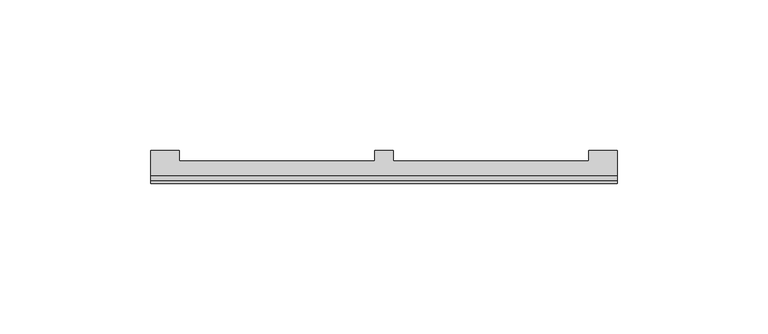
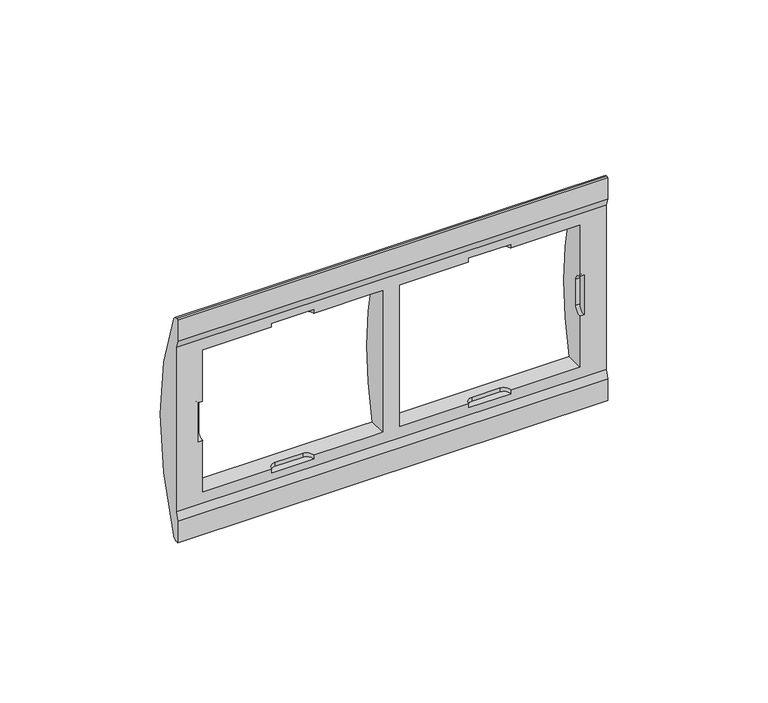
"""IFC4 building model written with IfcOpenShell, lengths in millimetres: proxy geometry, Iris_AceroNeptuno : Marco 2 Elementos."""

from ifc_helpers import new_model, si_unit, frame, origin, place, context, project, spatial, polyline, circle_curve, source, transform, mapped, element, save
from ifc_brep_helpers import plane_surface, cylinder_surface, revolved_surface, advanced_brep


def electrical_fixtures_6fdf20cc(model_context):
    return source(origin(), model_context, "Body", "AdvancedBrep", [
        advanced_brep(
        [(12.3, 100.0, 957.5), (12.3, 100.0, 965.7230531), (12.3, 101.0, 968.6297767), (12.3, 101.0, 1031.3702233), (12.3, 100.0, 1034.2769469), (12.3, 100.0, 1042.5), (12.3, 100.7901352, 1042.5), (12.3, 102.6322532, 1041.2788462), (12.3, 102.6322532, 958.7211538), (12.3, 100.7901352, 957.5), (167.3, 100.0, 957.5), (167.3, 100.7901352, 957.5), (167.3, 102.6322532, 958.7211538), (167.3, 102.6322532, 1041.2788462), (167.3, 100.7901352, 1042.5), (167.3, 100.0, 1042.5), (167.3, 100.0, 1034.2769469), (167.3, 101.0, 1031.3702233), (167.3, 101.0, 968.6297767), (167.3, 100.0, 965.7230531), (157.8, 111.0, 1000.0), (157.8, 107.5036585, 1027.0), (92.8, 107.5036585, 1027.0), (92.8, 111.0, 1000.0), (92.8, 107.5036585, 973.0), (157.8, 107.5036585, 973.0), (86.8, 111.0, 1000.0), (86.8, 107.5036585, 1027.0), (83.3, 107.5036585, 1027.0), (21.8, 107.5036585, 1027.0), (21.8, 111.0, 1000.0), (21.8, 107.5036585, 973.0), (83.3, 107.5036585, 973.0), (86.8, 107.5036585, 973.0), (159.3, 101.0, 1007.5), (159.3, 103.5, 1005.0), (159.3, 103.5, 995.0), (159.3, 101.0, 992.5), (157.8, 101.0, 1007.5), (157.8, 103.5, 1005.0), (157.8, 103.5, 995.0), (157.8, 101.0, 992.5), (20.3, 101.0, 992.5), (20.3, 103.5, 995.0), (20.3, 103.5, 1005.0), (20.3, 101.0, 1007.5), (21.8, 103.5, 1005.0), (21.8, 101.0, 1007.5), (21.8, 103.5, 995.0), (21.8, 101.0, 992.5), (157.8, 101.0, 973.0), (132.8, 101.0, 973.0), (132.8, 101.0, 971.5), (117.8, 101.0, 971.5), (117.8, 101.0, 973.0), (92.8, 101.0, 973.0), (92.8, 101.0, 1027.0), (117.8, 101.0, 1027.0), (117.8, 101.0, 1028.5), (132.8, 101.0, 1028.5), (132.8, 101.0, 1027.0), (157.8, 101.0, 1027.0), (21.8, 101.0, 1027.0), (46.8, 101.0, 1027.0), (46.8, 101.0, 1028.5), (61.8, 101.0, 1028.5), (61.8, 101.0, 1027.0), (83.3, 101.0, 1027.0), (86.8, 101.0, 1027.0), (86.8, 101.0, 973.0), (83.3, 101.0, 973.0), (61.8, 101.0, 973.0), (61.8, 101.0, 971.5), (46.8, 101.0, 971.5), (46.8, 101.0, 973.0), (21.8, 101.0, 973.0), (130.3, 103.5, 971.5), (120.3, 103.5, 971.5), (120.3, 103.5, 973.0), (130.3, 103.5, 973.0), (120.3, 103.5, 1028.5), (130.3, 103.5, 1028.5), (120.3, 103.5, 1027.0), (130.3, 103.5, 1027.0), (49.3, 103.5, 1028.5), (59.3, 103.5, 1028.5), (49.3, 103.5, 1027.0), (59.3, 103.5, 1027.0), (59.3, 103.5, 971.5), (49.3, 103.5, 971.5), (49.3, 103.5, 973.0), (59.3, 103.5, 973.0)],
        [
            (0, 1),
            (1, 2, circle_curve(frame((12.3, 5.0909091, 1000.0), z_axis=(1.0, 0.0, 0.0), x_axis=(0.0, 0.0, 1.0)), 100.9090909)),
            (2, 3),
            (3, 4, circle_curve(frame((12.3, 5.0909091, 1000.0), z_axis=(1.0, 0.0, 0.0), x_axis=(0.0, 0.0, 1.0)), 100.9090909)),
            (4, 5),
            (5, 6),
            (6, 7, circle_curve(frame((12.3, 100.7901352, 1040.5), z_axis=(-1.0, 0.0, 0.0), x_axis=(0.0, 0.0, 1.0)), 2.0)),
            (7, 8, circle_curve(frame((12.3, 5.0, 1000.0), z_axis=(-1.0, 0.0, 0.0), x_axis=(0.0, 0.0, 1.0)), 106.0)),
            (8, 9, circle_curve(frame((12.3, 100.7901352, 959.5), z_axis=(-1.0, 0.0, 0.0), x_axis=(0.0, 0.0, 1.0)), 2.0)),
            (9, 0),
            (10, 11),
            (11, 12, circle_curve(frame((167.3, 100.7901352, 959.5), z_axis=(1.0, 0.0, 0.0), x_axis=(0.0, 0.0, 1.0)), 2.0)),
            (12, 13, circle_curve(frame((167.3, 5.0, 1000.0), z_axis=(1.0, 0.0, 0.0), x_axis=(0.0, 0.0, 1.0)), 106.0)),
            (13, 14, circle_curve(frame((167.3, 100.7901352, 1040.5), z_axis=(1.0, 0.0, 0.0), x_axis=(0.0, 0.0, 1.0)), 2.0)),
            (14, 15),
            (15, 16),
            (16, 17, circle_curve(frame((167.3, 5.0909091, 1000.0), z_axis=(-1.0, 0.0, 0.0), x_axis=(0.0, 0.0, 1.0)), 100.9090909)),
            (17, 18),
            (18, 19, circle_curve(frame((167.3, 5.0909091, 1000.0), z_axis=(-1.0, 0.0, 0.0), x_axis=(0.0, 0.0, 1.0)), 100.9090909)),
            (19, 10),
            (0, 10),
            (19, 1),
            (7, 13),
            (12, 8),
            (20, 21, circle_curve(frame((157.8, 5.0, 1000.0), z_axis=(1.0, 0.0, 0.0), x_axis=(0.0, 0.0, 1.0)), 106.0)),
            (21, 22),
            (22, 23, circle_curve(frame((92.8, 5.0, 1000.0), z_axis=(-1.0, 0.0, 0.0), x_axis=(0.0, 0.0, 1.0)), 106.0)),
            (23, 24, circle_curve(frame((92.8, 5.0, 1000.0), z_axis=(-1.0, 0.0, 0.0), x_axis=(0.0, 0.0, 1.0)), 106.0)),
            (24, 25),
            (25, 20, circle_curve(frame((157.8, 5.0, 1000.0), z_axis=(1.0, 0.0, 0.0), x_axis=(0.0, 0.0, 1.0)), 106.0)),
            (26, 27, circle_curve(frame((86.8, 5.0, 1000.0), z_axis=(1.0, 0.0, 0.0), x_axis=(0.0, 0.0, 1.0)), 106.0)),
            (27, 28),
            (28, 29),
            (29, 30, circle_curve(frame((21.8, 5.0, 1000.0), z_axis=(-1.0, 0.0, 0.0), x_axis=(0.0, 0.0, 1.0)), 106.0)),
            (30, 31, circle_curve(frame((21.8, 5.0, 1000.0), z_axis=(-1.0, 0.0, 0.0), x_axis=(0.0, 0.0, 1.0)), 106.0)),
            (31, 32),
            (32, 33),
            (33, 26, circle_curve(frame((86.8, 5.0, 1000.0), z_axis=(1.0, 0.0, 0.0), x_axis=(0.0, 0.0, 1.0)), 106.0)),
            (5, 15),
            (14, 6),
            (9, 11),
            (34, 35, circle_curve(frame((159.3, 101.0, 1005.0), z_axis=(-1.0, 0.0, 0.0), x_axis=(0.0, 0.0, -1.0)), 2.5)),
            (35, 36),
            (36, 37, circle_curve(frame((159.3, 101.0, 995.0), z_axis=(-1.0, 0.0, 0.0), x_axis=(0.0, 0.0, -1.0)), 2.5)),
            (37, 34),
            (34, 38),
            (38, 39, circle_curve(frame((157.8, 101.0, 1005.0), z_axis=(-1.0, 0.0, 0.0), x_axis=(0.0, 0.0, -1.0)), 2.5)),
            (39, 35),
            (39, 40),
            (40, 36),
            (40, 41, circle_curve(frame((157.8, 101.0, 995.0), z_axis=(-1.0, 0.0, 0.0), x_axis=(0.0, 0.0, -1.0)), 2.5)),
            (41, 37),
            (42, 43, circle_curve(frame((20.3, 101.0, 995.0), z_axis=(1.0, 0.0, 0.0), x_axis=(0.0, 0.0, -1.0)), 2.5)),
            (43, 44),
            (44, 45, circle_curve(frame((20.3, 101.0, 1005.0), z_axis=(1.0, 0.0, 0.0), x_axis=(0.0, 0.0, -1.0)), 2.5)),
            (45, 42),
            (44, 46),
            (46, 47, circle_curve(frame((21.8, 101.0, 1005.0), z_axis=(1.0, 0.0, 0.0), x_axis=(0.0, 0.0, -1.0)), 2.5)),
            (47, 45),
            (43, 48),
            (48, 46),
            (42, 49),
            (49, 48, circle_curve(frame((21.8, 101.0, 995.0), z_axis=(1.0, 0.0, 0.0), x_axis=(0.0, 0.0, -1.0)), 2.5)),
            (18, 2),
            (17, 3),
            (41, 50),
            (50, 51),
            (51, 52),
            (52, 53),
            (53, 54),
            (54, 55),
            (55, 56),
            (56, 57),
            (57, 58),
            (58, 59),
            (59, 60),
            (60, 61),
            (61, 38),
            (47, 62),
            (62, 63),
            (63, 64),
            (64, 65),
            (65, 66),
            (66, 67),
            (67, 68),
            (68, 69),
            (69, 70),
            (70, 71),
            (71, 72),
            (72, 73),
            (73, 74),
            (74, 75),
            (75, 49),
            (16, 4),
            (52, 76, circle_curve(frame((130.3, 101.0, 971.5), z_axis=(0.0, 0.0, 1.0), x_axis=(1.0, 0.0, 0.0)), 2.5)),
            (76, 77),
            (77, 53, circle_curve(frame((120.3, 101.0, 971.5), z_axis=(0.0, 0.0, 1.0), x_axis=(1.0, 0.0, 0.0)), 2.5)),
            (77, 78),
            (78, 54, circle_curve(frame((120.3, 101.0, 973.0), z_axis=(0.0, 0.0, 1.0), x_axis=(1.0, 0.0, 0.0)), 2.5)),
            (76, 79),
            (79, 78),
            (51, 79, circle_curve(frame((130.3, 101.0, 973.0), z_axis=(0.0, 0.0, 1.0), x_axis=(1.0, 0.0, 0.0)), 2.5)),
            (58, 80, circle_curve(frame((120.3, 101.0, 1028.5), z_axis=(0.0, 0.0, -1.0), x_axis=(1.0, 0.0, 0.0)), 2.5)),
            (80, 81),
            (81, 59, circle_curve(frame((130.3, 101.0, 1028.5), z_axis=(0.0, 0.0, -1.0), x_axis=(1.0, 0.0, 0.0)), 2.5)),
            (57, 82, circle_curve(frame((120.3, 101.0, 1027.0), z_axis=(0.0, 0.0, -1.0), x_axis=(1.0, 0.0, 0.0)), 2.5)),
            (82, 80),
            (82, 83),
            (83, 81),
            (83, 60, circle_curve(frame((130.3, 101.0, 1027.0), z_axis=(0.0, 0.0, -1.0), x_axis=(1.0, 0.0, 0.0)), 2.5)),
            (64, 84, circle_curve(frame((49.3, 101.0, 1028.5), z_axis=(0.0, 0.0, -1.0), x_axis=(-1.0, 0.0, 0.0)), 2.5)),
            (84, 85),
            (85, 65, circle_curve(frame((59.3, 101.0, 1028.5), z_axis=(0.0, 0.0, -1.0), x_axis=(-1.0, 0.0, 0.0)), 2.5)),
            (63, 86, circle_curve(frame((49.3, 101.0, 1027.0), z_axis=(0.0, 0.0, -1.0), x_axis=(-1.0, 0.0, 0.0)), 2.5)),
            (86, 84),
            (86, 87),
            (87, 85),
            (87, 66, circle_curve(frame((59.3, 101.0, 1027.0), z_axis=(0.0, 0.0, -1.0), x_axis=(-1.0, 0.0, 0.0)), 2.5)),
            (72, 88, circle_curve(frame((59.3, 101.0, 971.5), z_axis=(0.0, 0.0, 1.0), x_axis=(-1.0, 0.0, 0.0)), 2.5)),
            (88, 89),
            (89, 73, circle_curve(frame((49.3, 101.0, 971.5), z_axis=(0.0, 0.0, 1.0), x_axis=(-1.0, 0.0, 0.0)), 2.5)),
            (89, 90),
            (90, 74, circle_curve(frame((49.3, 101.0, 973.0), z_axis=(0.0, 0.0, 1.0), x_axis=(-1.0, 0.0, 0.0)), 2.5)),
            (88, 91),
            (91, 90),
            (71, 91, circle_curve(frame((59.3, 101.0, 973.0), z_axis=(0.0, 0.0, 1.0), x_axis=(-1.0, 0.0, 0.0)), 2.5)),
            (61, 21),
            (25, 50),
            (55, 24),
            (22, 56),
            (68, 27),
            (33, 69),
            (75, 31),
            (29, 62),
        ],
        [
            plane_surface(frame((12.3, 100.0, 1045.0), z_axis=(-1.0, 0.0, 0.0), x_axis=(0.0, 0.0, 1.0))),
            plane_surface(frame((167.3, 100.0, 1045.0), z_axis=(1.0, 0.0, 0.0), x_axis=(0.0, 0.0, -1.0))),
            plane_surface(frame((12.3, 100.0, 957.5), z_axis=(0.0, -1.0, 0.0), x_axis=(1.0, 0.0, 0.0))),
            cylinder_surface(frame((167.3, 5.0, 1000.0), z_axis=(-1.0, 0.0, 0.0), x_axis=(0.0, 0.0, 1.0)), 106.0),
            plane_surface(frame((12.3, 100.0, 1042.5), z_axis=(0.0, 0.0, 1.0), x_axis=(1.0, 0.0, 0.0))),
            plane_surface(frame((12.3, 100.7901352, 957.5), z_axis=(0.0, 0.0, -1.0), x_axis=(1.0, 0.0, 0.0))),
            plane_surface(frame((159.3, 100.0, 1045.0), z_axis=(-1.0, 0.0, 0.0), x_axis=(0.0, 0.0, -1.0))),
            revolved_surface(polyline([(157.8, 101.0, 1002.5), (159.3, 101.0, 1002.5)]), (159.3, 101.0, 1005.0), (-1.0, 0.0, 0.0)),
            plane_surface(frame((153.8, 103.5, 1005.0), z_axis=(0.0, -1.0, 0.0), x_axis=(1.0, 0.0, 0.0))),
            revolved_surface(polyline([(157.8, 101.0, 992.5), (159.3, 101.0, 992.5)]), (159.3, 101.0, 995.0), (-1.0, 0.0, 0.0)),
            plane_surface(frame((20.3, 101.0, 992.5), z_axis=(1.0, 0.0, 0.0), x_axis=(0.0, -1.0, 0.0))),
            revolved_surface(polyline([(21.8, 101.0, 1002.5), (20.3, 101.0, 1002.5)]), (20.3, 101.0, 1005.0), (1.0, 0.0, 0.0)),
            plane_surface(frame((25.8, 103.5, 995.0), z_axis=(0.0, -1.0, 0.0), x_axis=(-1.0, 0.0, 0.0))),
            revolved_surface(polyline([(21.8, 101.0, 992.5), (20.3, 101.0, 992.5)]), (20.3, 101.0, 995.0), (1.0, 0.0, 0.0)),
            revolved_surface(polyline([(167.3, 5.0909091, 1100.9090909), (12.300000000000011, 5.0909091, 1100.9090909)]), (167.3, 5.0909091, 1000.0), (1.0, 0.0, 0.0)),
            plane_surface(frame((12.3, 101.0, 968.6297767), z_axis=(0.0, -1.0, 0.0), x_axis=(1.0, 0.0, 0.0))),
            plane_surface(frame((12.3, 100.0, 1034.2769469), z_axis=(0.0, -1.0, 0.0), x_axis=(1.0, 0.0, 0.0))),
            plane_surface(frame((80.3, 100.0, 971.5), z_axis=(0.0, 0.0, 1.0), x_axis=(-1.0, 0.0, 0.0))),
            revolved_surface(polyline([(122.8, 101.0, 971.5), (122.8, 101.0, 973.0)]), (120.3, 101.0, 979.0), (0.0, 0.0, -1.0)),
            plane_surface(frame((120.3, 103.5, 971.5), z_axis=(0.0, -1.0, 0.0), x_axis=(0.0, 0.0, 1.0))),
            revolved_surface(polyline([(132.8, 101.0, 971.5), (132.8, 101.0, 973.0)]), (130.3, 101.0, 979.0), (0.0, 0.0, -1.0)),
            plane_surface(frame((132.8, 120.0298457, 1028.5), z_axis=(0.0, 0.0, -1.0), x_axis=(0.0, 1.0, 0.0))),
            revolved_surface(polyline([(122.8, 101.0, 1028.5), (122.8, 101.0, 1027.0)]), (120.3, 101.0, 1021.0), (0.0, 0.0, 1.0)),
            plane_surface(frame((130.3, 103.5, 1028.5), z_axis=(0.0, -1.0, 0.0), x_axis=(0.0, 0.0, -1.0))),
            revolved_surface(polyline([(132.8, 101.0, 1028.5), (132.8, 101.0, 1027.0)]), (130.3, 101.0, 1021.0), (0.0, 0.0, 1.0)),
            plane_surface(frame((61.8, 101.0, 1028.5), z_axis=(0.0, 0.0, -1.0), x_axis=(0.0, 1.0, 0.0))),
            revolved_surface(polyline([(46.8, 101.0, 1028.5), (46.8, 101.0, 1027.0)]), (49.3, 101.0, 1021.0), (0.0, 0.0, 1.0)),
            plane_surface(frame((59.3, 103.5, 1028.5), z_axis=(0.0, -1.0, 0.0), x_axis=(0.0, 0.0, -1.0))),
            revolved_surface(polyline([(56.8, 101.0, 1028.5), (56.8, 101.0, 1027.0)]), (59.3, 101.0, 1021.0), (0.0, 0.0, 1.0)),
            plane_surface(frame((46.8, 100.0, 971.5), z_axis=(0.0, 0.0, 1.0), x_axis=(-1.0, 0.0, 0.0))),
            revolved_surface(polyline([(46.8, 101.0, 971.5), (46.8, 101.0, 973.0)]), (49.3, 101.0, 979.0), (0.0, 0.0, -1.0)),
            plane_surface(frame((49.3, 103.5, 971.5), z_axis=(0.0, -1.0, 0.0), x_axis=(0.0, 0.0, 1.0))),
            revolved_surface(polyline([(56.8, 101.0, 971.5), (56.8, 101.0, 973.0)]), (59.3, 101.0, 979.0), (0.0, 0.0, -1.0)),
            plane_surface(frame((157.8, 94.1055079, 973.0), z_axis=(-1.0, 0.0, 0.0), x_axis=(0.0, 1.0, 0.0))),
            plane_surface(frame((92.8, 94.1055079, 973.0), z_axis=(1.0, 0.0, 0.0), x_axis=(0.0, -1.0, 0.0))),
            plane_surface(frame((157.8, 111.0, 1027.0), z_axis=(0.0, 0.0, -1.0), x_axis=(-1.0, 0.0, 0.0))),
            plane_surface(frame((157.8, 100.0, 973.0), z_axis=(0.0, 0.0, 1.0), x_axis=(-1.0, 0.0, 0.0))),
            plane_surface(frame((86.8, 94.1055079, 973.0), z_axis=(-1.0, 0.0, 0.0), x_axis=(0.0, 1.0, 0.0))),
            plane_surface(frame((21.8, 94.1055079, 973.0), z_axis=(1.0, 0.0, 0.0), x_axis=(0.0, -1.0, 0.0))),
            plane_surface(frame((86.8, 111.0, 1027.0), z_axis=(0.0, 0.0, -1.0), x_axis=(-1.0, 0.0, 0.0))),
            plane_surface(frame((86.8, 100.0, 973.0), z_axis=(0.0, 0.0, 1.0), x_axis=(-1.0, 0.0, 0.0))),
            cylinder_surface(frame((167.3, 100.7901352, 1040.5), z_axis=(-1.0, 0.0, 0.0), x_axis=(0.0, 0.0, 1.0)), 2.0),
            cylinder_surface(frame((167.3, 100.7901352, 959.5), z_axis=(-1.0, 0.0, 0.0), x_axis=(0.0, 0.0, 1.0)), 2.0),
        ],
        [
            (0, [[1, 2, 3, 4, 5, 6, 7, 8, 9, 10]]),
            (1, [[11, 12, 13, 14, 15, 16, 17, 18, 19, 20]]),
            (2, [[-1, 21, -20, 22]]),
            (3, [[-8, 23, -13, 24], [25, 26, 27, 28, 29, 30], [31, 32, 33, 34, 35, 36, 37, 38]]),
            (4, [[-6, 39, -15, 40]]),
            (5, [[-10, 41, -11, -21]]),
            (6, [[42, 43, 44, 45]]),
            (7, [[-42, 46, 47, 48]]),
            (8, [[-43, -48, 49, 50]]),
            (9, [[-44, -50, 51, 52]]),
            (10, [[53, 54, 55, 56]]),
            (11, [[-55, 57, 58, 59]]),
            (12, [[-54, 60, 61, -57]]),
            (13, [[-53, 62, 63, -60]]),
            (14, [[-2, -22, -19, 64]]),
            (15, [[-3, -64, -18, 65], [-45, -52, 66, 67, 68, 69, 70, 71, 72, 73, 74, 75, 76, 77, 78, -46], [-56, -59, 79, 80, 81, 82, 83, 84, 85, 86, 87, 88, 89, 90, 91, 92, 93, -62]]),
            (14, [[-4, -65, -17, 94]]),
            (16, [[-5, -94, -16, -39]]),
            (17, [[95, 96, 97, -69]]),
            (18, [[-97, 98, 99, -70]]),
            (19, [[-96, 100, 101, -98]]),
            (20, [[-95, -68, 102, -100]]),
            (21, [[103, 104, 105, -75]]),
            (22, [[-103, -74, 106, 107]]),
            (23, [[-104, -107, 108, 109]]),
            (24, [[-105, -109, 110, -76]]),
            (25, [[111, 112, 113, -82]]),
            (26, [[-111, -81, 114, 115]]),
            (27, [[-112, -115, 116, 117]]),
            (28, [[-113, -117, 118, -83]]),
            (29, [[119, 120, 121, -90]]),
            (30, [[-121, 122, 123, -91]]),
            (31, [[-120, 124, 125, -122]]),
            (32, [[-119, -89, 126, -124]]),
            (33, [[127, -25, -30, 128, -66, -51, -49, -47, -78]]),
            (34, [[129, -28, -27, 130, -72]]),
            (35, [[-127, -77, -110, -108, -106, -73, -130, -26]]),
            (36, [[-128, -29, -129, -71, -99, -101, -102, -67]]),
            (37, [[131, -31, -38, 132, -86]]),
            (38, [[133, -35, -34, 134, -79, -58, -61, -63, -93]]),
            (39, [[-131, -85, -84, -118, -116, -114, -80, -134, -33, -32]]),
            (40, [[-132, -37, -36, -133, -92, -123, -125, -126, -88, -87]]),
            (41, [[-7, -40, -14, -23]]),
            (42, [[-9, -24, -12, -41]]),
        ],
    ),
    ])


if __name__ == "__main__":
    model = new_model("IFC4")
    model_context = context("Model", 3, world=origin())
    ifc_project = project(units=[si_unit("LENGTHUNIT", "METRE", prefix="MILLI")], contexts=[model_context])
    site = spatial("IfcSite", under=ifc_project)
    building = spatial("IfcBuilding", under=site)
    placement = place(None, origin())
    electrical_fixtures_shape = electrical_fixtures_6fdf20cc(model_context)
    element("IfcBuildingElementProxy", 1, Name="Iris_AceroNeptuno : Marco 2 Elementos", ObjectType="Iris_AceroNeptuno : Marco 2 Elementos", at=placement, inside=building, context=model_context, shape_type="MappedRepresentation", body=[
        mapped(electrical_fixtures_shape, transform((0.0, 0.0, 0.0), x_axis=(1.0, 0.0, 0.0), y_axis=(0.0, 1.0, 0.0), z_axis=(0.0, 0.0, 1.0))),
    ])
    save(model, "model.ifc")
